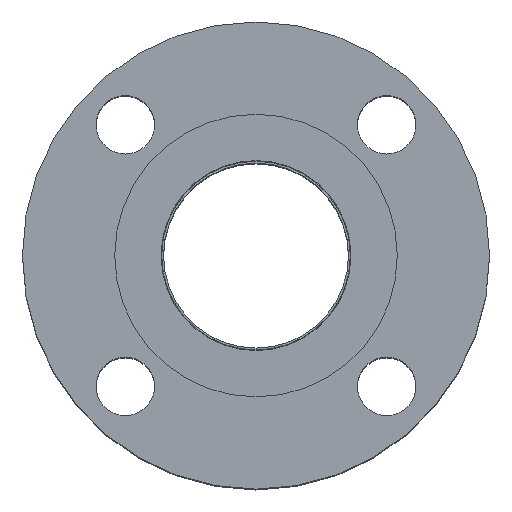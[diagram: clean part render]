
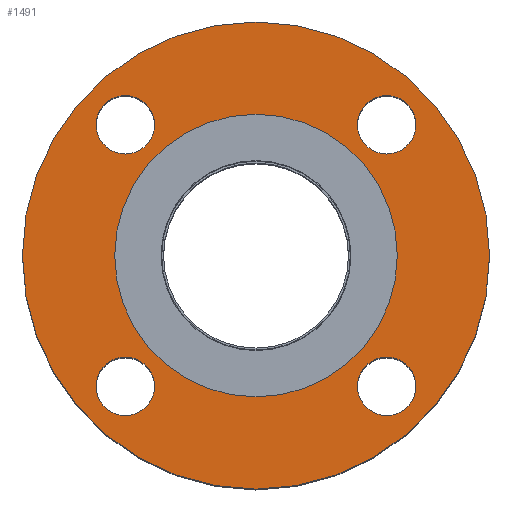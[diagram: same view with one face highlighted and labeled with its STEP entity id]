
A CAD part, top view. The second image highlights one B-rep face of the part: STEP entity #1491.
In plain terms, the highlighted planar face has unit normal (0, 0, 1).
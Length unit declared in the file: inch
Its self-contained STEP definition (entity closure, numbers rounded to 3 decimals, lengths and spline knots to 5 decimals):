
#80=FACE_BOUND('',#391,.T.);
#81=FACE_BOUND('',#392,.T.);
#82=FACE_BOUND('',#393,.T.);
#83=FACE_BOUND('',#394,.T.);
#84=FACE_BOUND('',#395,.T.);
#142=PLANE('',#1684);
#261=FACE_OUTER_BOUND('',#390,.T.);
#390=EDGE_LOOP('',(#1133));
#391=EDGE_LOOP('',(#1134));
#392=EDGE_LOOP('',(#1135));
#393=EDGE_LOOP('',(#1136));
#394=EDGE_LOOP('',(#1137));
#395=EDGE_LOOP('',(#1138));
#583=CIRCLE('',#1651,0.375);
#585=CIRCLE('',#1654,0.375);
#587=CIRCLE('',#1657,0.375);
#589=CIRCLE('',#1660,0.375);
#602=CIRCLE('',#1679,1.815);
#604=CIRCLE('',#1683,3.);
#763=VERTEX_POINT('',#2626);
#765=VERTEX_POINT('',#2632);
#767=VERTEX_POINT('',#2638);
#769=VERTEX_POINT('',#2644);
#780=VERTEX_POINT('',#2676);
#782=VERTEX_POINT('',#2683);
#891=EDGE_CURVE('',#763,#763,#583,.T.);
#894=EDGE_CURVE('',#765,#765,#585,.T.);
#897=EDGE_CURVE('',#767,#767,#587,.T.);
#900=EDGE_CURVE('',#769,#769,#589,.T.);
#916=EDGE_CURVE('',#780,#780,#602,.T.);
#918=EDGE_CURVE('',#782,#782,#604,.T.);
#1133=ORIENTED_EDGE('',*,*,#918,.T.);
#1134=ORIENTED_EDGE('',*,*,#891,.T.);
#1135=ORIENTED_EDGE('',*,*,#894,.T.);
#1136=ORIENTED_EDGE('',*,*,#897,.T.);
#1137=ORIENTED_EDGE('',*,*,#900,.T.);
#1138=ORIENTED_EDGE('',*,*,#916,.T.);
#1491=ADVANCED_FACE('',(#261,#80,#81,#82,#83,#84),#142,.T.);
#1651=AXIS2_PLACEMENT_3D('',#2627,#1975,#1976);
#1654=AXIS2_PLACEMENT_3D('',#2633,#1982,#1983);
#1657=AXIS2_PLACEMENT_3D('',#2639,#1989,#1990);
#1660=AXIS2_PLACEMENT_3D('',#2645,#1996,#1997);
#1679=AXIS2_PLACEMENT_3D('',#2678,#2037,#2038);
#1683=AXIS2_PLACEMENT_3D('',#2684,#2045,#2046);
#1684=AXIS2_PLACEMENT_3D('',#2686,#2048,#2049);
#1975=DIRECTION('center_axis',(0.,0.,-1.));
#1976=DIRECTION('ref_axis',(0.,-1.,0.));
#1982=DIRECTION('center_axis',(0.,0.,-1.));
#1983=DIRECTION('ref_axis',(-1.,0.,0.));
#1989=DIRECTION('center_axis',(0.,0.,-1.));
#1990=DIRECTION('ref_axis',(0.,1.,0.));
#1996=DIRECTION('center_axis',(0.,0.,-1.));
#1997=DIRECTION('ref_axis',(1.,0.,0.));
#2037=DIRECTION('center_axis',(0.,0.,-1.));
#2038=DIRECTION('ref_axis',(0.,1.,0.));
#2045=DIRECTION('center_axis',(0.,0.,1.));
#2046=DIRECTION('ref_axis',(1.,0.,0.));
#2048=DIRECTION('center_axis',(0.,0.,1.));
#2049=DIRECTION('ref_axis',(1.,0.,0.));
#2626=CARTESIAN_POINT('',(1.67938,2.05438,0.345));
#2627=CARTESIAN_POINT('Origin',(1.67938,1.67938,0.345));
#2632=CARTESIAN_POINT('',(2.05438,-1.67938,0.345));
#2633=CARTESIAN_POINT('Origin',(1.67938,-1.67938,0.345));
#2638=CARTESIAN_POINT('',(-1.67938,-2.05438,0.345));
#2639=CARTESIAN_POINT('Origin',(-1.67938,-1.67938,0.345));
#2644=CARTESIAN_POINT('',(-2.05438,1.67938,0.345));
#2645=CARTESIAN_POINT('Origin',(-1.67938,1.67938,0.345));
#2676=CARTESIAN_POINT('',(0.,-1.815,0.345));
#2678=CARTESIAN_POINT('Origin',(0.,0.,0.345));
#2683=CARTESIAN_POINT('',(0.,-3.,0.345));
#2684=CARTESIAN_POINT('Origin',(0.,0.,0.345));
#2686=CARTESIAN_POINT('Origin',(0.,1.22,0.345));
